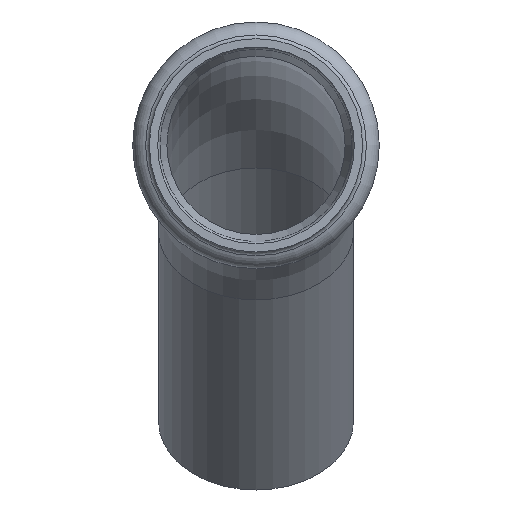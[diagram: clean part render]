
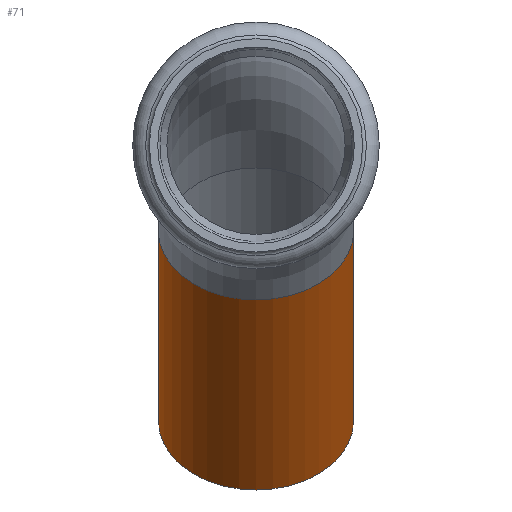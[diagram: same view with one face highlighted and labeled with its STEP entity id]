
A CAD part, front view. The second image highlights one B-rep face of the part: STEP entity #71.
In plain terms, the highlighted cylindrical face has radius 17.5 mm (diameter 35 mm), a full revolution.
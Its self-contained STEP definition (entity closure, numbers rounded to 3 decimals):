
#71=ADVANCED_FACE('',(#236,#238),#240,.T.);
#236=FACE_OUTER_BOUND('',#237,.T.);
#237=EDGE_LOOP('',(#305));
#238=FACE_OUTER_BOUND('',#239,.T.);
#239=EDGE_LOOP('',(#306));
#240=CYLINDRICAL_SURFACE('',#241,17.5);
#241=AXIS2_PLACEMENT_3D('',#242,#243,#244);
#242=CARTESIAN_POINT('',(0.,75.377,-15.377));
#243=DIRECTION('',(0.,0.707,-0.707));
#244=DIRECTION('',(-1.,0.,0.));
#305=ORIENTED_EDGE('',*,*,#333,.F.);
#306=ORIENTED_EDGE('',*,*,#335,.T.);
#333=EDGE_CURVE('',#378,#378,#379,.T.);
#335=EDGE_CURVE('',#382,#382,#383,.T.);
#378=VERTEX_POINT('',#488);
#379=CIRCLE('',#489,17.5);
#382=VERTEX_POINT('',#498);
#383=CIRCLE('',#499,17.5);
#488=CARTESIAN_POINT('',(-17.5,109.497,-49.497));
#489=AXIS2_PLACEMENT_3D('',#490,#491,#492);
#490=CARTESIAN_POINT('',(0.,109.497,-49.497));
#491=DIRECTION('',(0.,0.707,-0.707));
#492=DIRECTION('',(-1.,0.,0.));
#498=CARTESIAN_POINT('',(-17.5,75.377,-15.377));
#499=AXIS2_PLACEMENT_3D('',#500,#501,#502);
#500=CARTESIAN_POINT('',(0.,75.377,-15.377));
#501=DIRECTION('',(0.,0.707,-0.707));
#502=DIRECTION('',(-1.,0.,0.));
